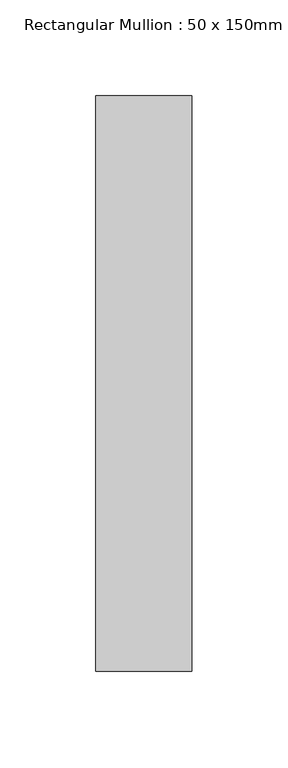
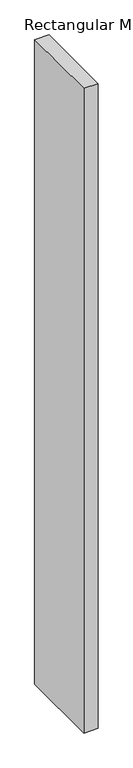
"""IFC4 building model written with IfcOpenShell, lengths in millimetres: member geometry, Rectangular Mullion : 50 x 150mm."""

from ifc_helpers import new_model, si_unit, frame, origin, place, context, project, spatial, polyline, outline, extrude, source, transform, mapped, element, save


def rectangular_mullion_50_x_150mm_49e73c1b(model_context):
    return source(origin(), model_context, "Body", "SweptSolid", [
        extrude(outline(polyline([(0.0, 125.0), (0.0, -175.0), (-50.0, -175.0), (-50.0, 125.0), (0.0, 125.0)])), frame((0.0, 0.0, -2400.0), z_axis=(0.0, 0.0, 1.0), x_axis=(1.0, 0.0, 0.0)), (0.0, 0.0, 1.0), 2400.0),
    ])


if __name__ == "__main__":
    model = new_model("IFC4")
    model_context = context("Model", 3, world=origin())
    ifc_project = project(units=[si_unit("LENGTHUNIT", "METRE", prefix="MILLI")], contexts=[model_context])
    site = spatial("IfcSite", under=ifc_project)
    building = spatial("IfcBuilding", under=site)
    placement = place(None, origin())
    rectangular_mullion_50_x_150mm_shape = rectangular_mullion_50_x_150mm_49e73c1b(model_context)
    element("IfcMember", 1, ObjectType="Rectangular Mullion : 50 x 150mm", at=placement, inside=building, context=model_context, shape_type="MappedRepresentation", body=[
        mapped(rectangular_mullion_50_x_150mm_shape, transform((0.0, 0.0, 0.0), x_axis=(1.0, 0.0, 0.0), y_axis=(0.0, 1.0, 0.0), z_axis=(0.0, 0.0, 1.0))),
    ])
    save(model, "model.ifc")
